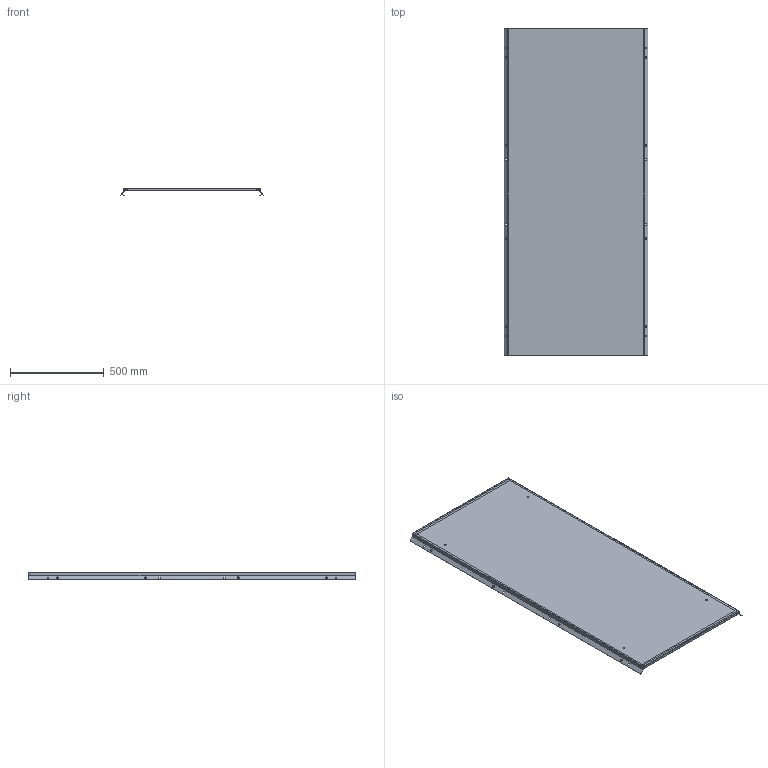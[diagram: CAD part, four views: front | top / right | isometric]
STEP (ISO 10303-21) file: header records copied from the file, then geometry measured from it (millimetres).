
FILE_DESCRIPTION (( 'STEP AP203' ), '1' );
FILE_NAME ('MA1.200.080618.10.00 AleSta-PR188 Ïàíåëü çàäíÿÿ, äëÿ øêàôîâ ALESTA, 1800 x 800.STEP', '2025-02-19T15:16:36', ( '' ), ( '' ), 'SwSTEP 2.0', 'SolidWorks 2021', '' );
FILE_SCHEMA (( 'CONFIG_CONTROL_DESIGN' ));
Length unit declared in the file: millimetre
Products named in the file (6): MA1.200.060620.11.00 Ïàíåëü çàäíÿÿ, äëÿ øêàôîâ AleSta, 2000x600_1800å800; MA1.200.060620.11.01 Ïîëîòíî çàäíåé ïàíåëè 2000õ600_1800å800; MA1.200.080618.10.00 AleSta-PR188  Ïàíåëü çàäíÿÿ, äëÿ øêàôîâ ALESTA, 1800 x 800; Øïèëüêà Ì6õ12_˜¯¨«ìª  Œ6å12; Óïëîòíèòåëü ïàíåëè íèæíåé_ ‚=1800; Âèíò ñàìîíàðåçàþùèé ñ ïîòàéíîé ãîëîâêîé Ì5x16 DIN 7500 M TORX, êëàññ ïðî÷íîñòè 8.8, îöèíêîâàííàÿ ñòàëü_Œ5å16
Assembly tree (15 placements, depth 3):
  MA1.200.080618.10.00 AleSta-PR188  Ïàíåëü çàäíÿÿ, äëÿ øêàôîâ ALESTA, 1800 x 800
    MA1.200.060620.11.00 Ïàíåëü çàäíÿÿ, äëÿ øêàôîâ AleSta, 2000x600_1800å800
      MA1.200.060620.11.01 Ïîëîòíî çàäíåé ïàíåëè 2000õ600_1800å800
      Óïëîòíèòåëü ïàíåëè íèæíåé_ ‚=1800
      Øïèëüêà Ì6õ12_˜¯¨«ìª  Œ6å12  x4
    Âèíò ñàìîíàðåçàþùèé ñ ïîòàéíîé ãîëîâêîé Ì5x16 DIN 7500 M TORX, êëàññ ïðî÷íîñòè 8.8, îöèíêîâàííàÿ ñòàëü_Œ5å16  x8
Bounding box: 765.31 x 1745 x 41.7 mm (x, y, z)
Volume: 1761779.7 mm3; surface area: 3064003.4 mm2
Topology: 14 solids, 14 shells, 544 faces, 1352 edges, 864 vertices
Faces by surface type: cylinder 304, plane 184, cone 40, bspline 8, torus 8
Entity records: 7885 total; most frequent: CARTESIAN_POINT 1623, DIRECTION 1165, ORIENTED_EDGE 1074, EDGE_CURVE 537, AXIS2_PLACEMENT_3D 424, VERTEX_POINT 332, LINE 317, VECTOR 317
